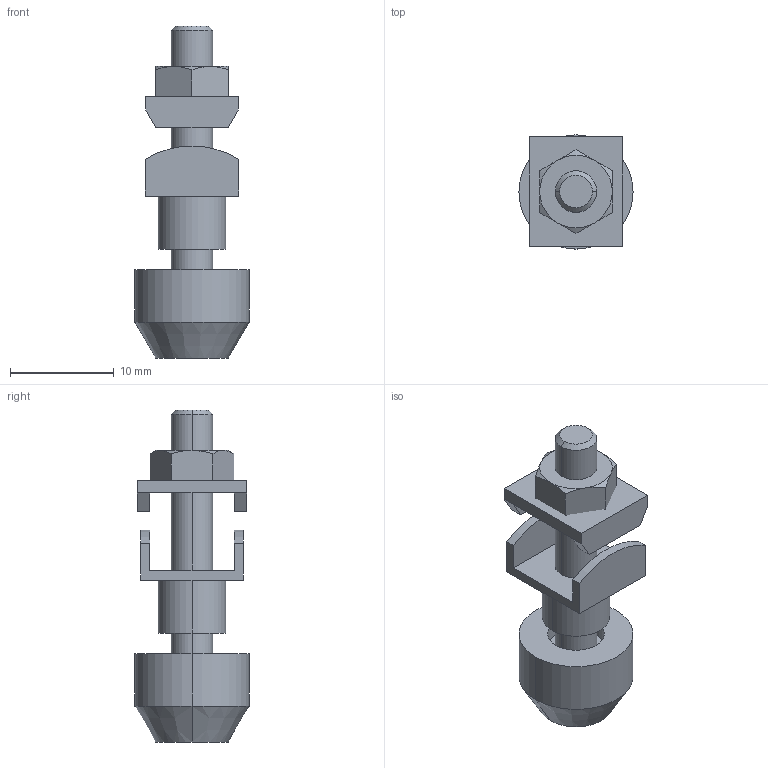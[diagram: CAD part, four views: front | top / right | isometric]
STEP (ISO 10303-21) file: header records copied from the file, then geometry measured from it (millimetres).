
FILE_DESCRIPTION(('STEP AP214'),'1');
FILE_NAME('cctmp_7E5C98A8-A88C-42BB-B376-D09983E15201_2020_7_6_11_9_26_188..stp','2020-07-06T09:09:26',('Meusburger Georg GmbH & Co KG'),('CADClick - www.CADClick.com'),'Spatial InterOp 3D',' ','unknown authorization');
FILE_SCHEMA(('AUTOMOTIVE_DESIGN { 1 0 10303 214 1 1 1 1 }'));
Length unit declared in the file: millimetre
Products named in the file (6): HWS 2002_0; E 90200_4
Assembly tree (5 placements, depth 2):
  HWS 2002_0
    E 90200_4
    HWS 2002_0
    HWS 2002_0
    HWS 2002_0
    HWS 2002_0
Bounding box: 11 x 11 x 32 mm (x, y, z)
Volume: 1457.7 mm3; surface area: 1992.7 mm2
Topology: 5 solids, 5 shells, 86 faces, 188 edges, 116 vertices
Faces by surface type: plane 44, cone 24, cylinder 18
Entity records: 3219 total; most frequent: CARTESIAN_POINT 492, DIRECTION 408, ORIENTED_EDGE 376, EDGE_CURVE 188, AXIS2_PLACEMENT_3D 152, VERTEX_POINT 116, LINE 104, VECTOR 104
